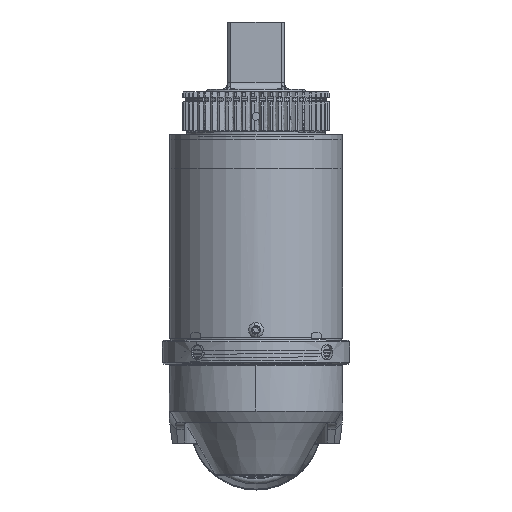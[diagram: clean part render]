
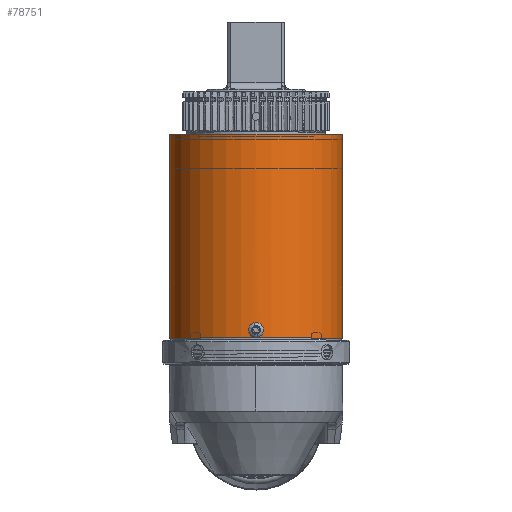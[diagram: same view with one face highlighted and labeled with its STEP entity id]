
A CAD part, top view. The second image highlights one B-rep face of the part: STEP entity #78751.
In plain terms, the highlighted cylindrical face has radius 38.735 mm (diameter 77.47 mm), a partial arc.
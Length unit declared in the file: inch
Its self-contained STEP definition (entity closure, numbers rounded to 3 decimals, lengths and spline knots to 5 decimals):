
#3724 = EDGE_LOOP ( 'NONE', ( #106020, #95134, #104979, #43543 ) ) ;
#10041 = VERTEX_POINT ( 'NONE', #33636 ) ;
#27387 = CARTESIAN_POINT ( 'NONE',  ( -0.00003, 1.703, 17.65395 ) ) ;
#28171 = CARTESIAN_POINT ( 'NONE',  ( -1.525, 1.485, 16.12895 ) ) ;
#32780 = DIRECTION ( 'NONE',  ( 0., 1., 0. ) ) ;
#33544 = LINE ( 'NONE', #92432, #85838 ) ;
#33636 = CARTESIAN_POINT ( 'NONE',  ( 1.525, 5.0625, 16.12895 ) ) ;
#34207 = AXIS2_PLACEMENT_3D ( 'NONE', #105044, #73909, #52889 ) ;
#35405 = CARTESIAN_POINT ( 'NONE',  ( -1.525, 1.485, 16.12895 ) ) ;
#38482 = VECTOR ( 'NONE', #32780, 39.37008 ) ;
#39764 = VERTEX_POINT ( 'NONE', #27387 ) ;
#41734 = LINE ( 'NONE', #35405, #38482 ) ;
#42888 = B_SPLINE_CURVE_WITH_KNOTS ( 'NONE', 3,
 ( #55993, #56116, #55390, #55363, #55226, #55212, #55112, #54969, #54950, #54818, #54805, #54700, #54545, #54526, #54370, #54357, #54248, #54085, #54061, #53929, #53913, #53639, #53620, #53479, #53457, #53356, #53192, #53176 ),
 .UNSPECIFIED., .F., .F.,
 ( 4, 2, 2, 2, 2, 2, 2, 2, 2, 2, 2, 2, 2, 4 ),
 ( 0.00619, 0.00697, 0.00774, 0.00813, 0.00852, 0.0089, 0.00929, 0.00968, 0.01007, 0.01045, 0.01084, 0.01123, 0.01161, 0.01239 ),
 .UNSPECIFIED. ) ;
#43543 = ORIENTED_EDGE ( 'NONE', *, *, #56290, .T. ) ;
#44593 = CIRCLE ( 'NONE', #95877, 1.525 ) ;
#48399 = CIRCLE ( 'NONE', #66449, 1.525 ) ;
#49626 = CARTESIAN_POINT ( 'NONE',  ( 1.525, 1.485, 16.12895 ) ) ;
#52480 = EDGE_CURVE ( 'NONE', #76326, #111945, #41734, .T. ) ;
#52889 = DIRECTION ( 'NONE',  ( 1., 0., 0. ) ) ;
#53176 = CARTESIAN_POINT ( 'NONE',  ( 0., 1.547, 17.65395 ) ) ;
#53192 = CARTESIAN_POINT ( 'NONE',  ( 0.01031, 1.547, 17.65395 ) ) ;
#53312 = EDGE_CURVE ( 'NONE', #73940, #10041, #33544, .T. ) ;
#53356 = CARTESIAN_POINT ( 'NONE',  ( 0.02055, 1.54907, 17.65384 ) ) ;
#53457 = CARTESIAN_POINT ( 'NONE',  ( 0.03462, 1.55492, 17.65357 ) ) ;
#53479 = CARTESIAN_POINT ( 'NONE',  ( 0.03917, 1.55735, 17.65346 ) ) ;
#53620 = CARTESIAN_POINT ( 'NONE',  ( 0.04768, 1.56306, 17.65321 ) ) ;
#53639 = CARTESIAN_POINT ( 'NONE',  ( 0.0516, 1.56629, 17.65308 ) ) ;
#53913 = CARTESIAN_POINT ( 'NONE',  ( 0.05879, 1.57349, 17.65282 ) ) ;
#53929 = CARTESIAN_POINT ( 'NONE',  ( 0.06209, 1.57751, 17.65269 ) ) ;
#54061 = CARTESIAN_POINT ( 'NONE',  ( 0.06773, 1.58599, 17.65245 ) ) ;
#54085 = CARTESIAN_POINT ( 'NONE',  ( 0.07013, 1.59047, 17.65234 ) ) ;
#54248 = CARTESIAN_POINT ( 'NONE',  ( 0.07404, 1.59993, 17.65216 ) ) ;
#54357 = CARTESIAN_POINT ( 'NONE',  ( 0.07553, 1.60488, 17.65208 ) ) ;
#54370 = CARTESIAN_POINT ( 'NONE',  ( 0.0775, 1.61485, 17.65198 ) ) ;
#54526 = CARTESIAN_POINT ( 'NONE',  ( 0.07801, 1.61993, 17.65196 ) ) ;
#54545 = CARTESIAN_POINT ( 'NONE',  ( 0.07799, 1.63022, 17.65196 ) ) ;
#54700 = CARTESIAN_POINT ( 'NONE',  ( 0.07749, 1.63529, 17.65198 ) ) ;
#54805 = CARTESIAN_POINT ( 'NONE',  ( 0.07549, 1.64526, 17.65208 ) ) ;
#54818 = CARTESIAN_POINT ( 'NONE',  ( 0.07399, 1.65022, 17.65216 ) ) ;
#54950 = CARTESIAN_POINT ( 'NONE',  ( 0.07007, 1.65965, 17.65234 ) ) ;
#54969 = CARTESIAN_POINT ( 'NONE',  ( 0.06767, 1.66413, 17.65245 ) ) ;
#55112 = CARTESIAN_POINT ( 'NONE',  ( 0.062, 1.67261, 17.65269 ) ) ;
#55212 = CARTESIAN_POINT ( 'NONE',  ( 0.0587, 1.67662, 17.65283 ) ) ;
#55226 = CARTESIAN_POINT ( 'NONE',  ( 0.0479, 1.68739, 17.65322 ) ) ;
#55363 = CARTESIAN_POINT ( 'NONE',  ( 0.03919, 1.6932, 17.65348 ) ) ;
#55390 = CARTESIAN_POINT ( 'NONE',  ( 0.02042, 1.70096, 17.65384 ) ) ;
#55993 = CARTESIAN_POINT ( 'NONE',  ( -0.00003, 1.703, 17.65395 ) ) ;
#56116 = CARTESIAN_POINT ( 'NONE',  ( 0.01015, 1.703, 17.65395 ) ) ;
#56126 = CARTESIAN_POINT ( 'NONE',  ( -0.00003, 1.703, 17.65395 ) ) ;
#56261 = EDGE_CURVE ( 'NONE', #73940, #76326, #48399, .T. ) ;
#56279 = CARTESIAN_POINT ( 'NONE',  ( -0.00512, 1.703, 17.65395 ) ) ;
#56290 = EDGE_CURVE ( 'NONE', #10041, #111945, #44593, .T. ) ;
#56300 = CARTESIAN_POINT ( 'NONE',  ( -0.01029, 1.70249, 17.65393 ) ) ;
#56446 = CARTESIAN_POINT ( 'NONE',  ( -0.02028, 1.70049, 17.65383 ) ) ;
#56550 = CARTESIAN_POINT ( 'NONE',  ( -0.02514, 1.69901, 17.65375 ) ) ;
#56565 = CARTESIAN_POINT ( 'NONE',  ( -0.0346, 1.6951, 17.65357 ) ) ;
#56710 = CARTESIAN_POINT ( 'NONE',  ( -0.03915, 1.69265, 17.65346 ) ) ;
#56733 = CARTESIAN_POINT ( 'NONE',  ( -0.0476, 1.687, 17.65322 ) ) ;
#56884 = CARTESIAN_POINT ( 'NONE',  ( -0.05154, 1.68377, 17.65309 ) ) ;
#56990 = CARTESIAN_POINT ( 'NONE',  ( -0.05882, 1.67648, 17.65282 ) ) ;
#57011 = CARTESIAN_POINT ( 'NONE',  ( -0.06204, 1.67255, 17.65269 ) ) ;
#57021 = EDGE_CURVE ( 'NONE', #67739, #39764, #67105, .T. ) ;
#57030 = EDGE_CURVE ( 'NONE', #39764, #67739, #42888, .T. ) ;
#57158 = CARTESIAN_POINT ( 'NONE',  ( -0.06769, 1.66409, 17.65245 ) ) ;
#57177 = CARTESIAN_POINT ( 'NONE',  ( -0.07013, 1.65953, 17.65234 ) ) ;
#57340 = CARTESIAN_POINT ( 'NONE',  ( -0.07403, 1.65008, 17.65216 ) ) ;
#57455 = CARTESIAN_POINT ( 'NONE',  ( -0.07551, 1.64522, 17.65208 ) ) ;
#57468 = CARTESIAN_POINT ( 'NONE',  ( -0.0775, 1.63521, 17.65198 ) ) ;
#57605 = CARTESIAN_POINT ( 'NONE',  ( -0.078, 1.63005, 17.65196 ) ) ;
#57628 = CARTESIAN_POINT ( 'NONE',  ( -0.07799, 1.61478, 17.65196 ) ) ;
#57780 = CARTESIAN_POINT ( 'NONE',  ( -0.07595, 1.60452, 17.65207 ) ) ;
#57889 = CARTESIAN_POINT ( 'NONE',  ( -0.06816, 1.58575, 17.65243 ) ) ;
#57907 = CARTESIAN_POINT ( 'NONE',  ( -0.06235, 1.57705, 17.65269 ) ) ;
#58046 = CARTESIAN_POINT ( 'NONE',  ( -0.05156, 1.56625, 17.65308 ) ) ;
#58062 = CARTESIAN_POINT ( 'NONE',  ( -0.04755, 1.56296, 17.65322 ) ) ;
#58220 = CARTESIAN_POINT ( 'NONE',  ( -0.03907, 1.5573, 17.65346 ) ) ;
#58341 = CARTESIAN_POINT ( 'NONE',  ( -0.03459, 1.5549, 17.65357 ) ) ;
#58487 = CARTESIAN_POINT ( 'NONE',  ( -0.02515, 1.55099, 17.65375 ) ) ;
#58510 = CARTESIAN_POINT ( 'NONE',  ( -0.02019, 1.54949, 17.65383 ) ) ;
#58668 = CARTESIAN_POINT ( 'NONE',  ( -0.01022, 1.54751, 17.65393 ) ) ;
#59260 = CARTESIAN_POINT ( 'NONE',  ( 0., 1.547, 17.65395 ) ) ;
#60174 = CARTESIAN_POINT ( 'NONE',  ( -0.00515, 1.547, 17.65395 ) ) ;
#66449 = AXIS2_PLACEMENT_3D ( 'NONE', #126653, #126633, #126496 ) ;
#67105 = B_SPLINE_CURVE_WITH_KNOTS ( 'NONE', 3,
 ( #59260, #60174, #58668, #58510, #58487, #58341, #58220, #58062, #58046, #57907, #57889, #57780, #57628, #57605, #57468, #57455, #57340, #57177, #57158, #57011, #56990, #56884, #56733, #56710, #56565, #56550, #56446, #56300, #56279, #56126 ),
 .UNSPECIFIED., .F., .F.,
 ( 4, 2, 2, 2, 2, 2, 2, 2, 2, 2, 2, 2, 2, 2, 4 ),
 ( 0., 0.00039, 0.00077, 0.00116, 0.00155, 0.00232, 0.0031, 0.00348, 0.00387, 0.00426, 0.00465, 0.00503, 0.00542, 0.00581, 0.00619 ),
 .UNSPECIFIED. ) ;
#67739 = VERTEX_POINT ( 'NONE', #116688 ) ;
#73527 = FACE_OUTER_BOUND ( 'NONE', #3724, .T. ) ;
#73909 = DIRECTION ( 'NONE',  ( 0., 1., 0. ) ) ;
#73940 = VERTEX_POINT ( 'NONE', #49626 ) ;
#74453 = ORIENTED_EDGE ( 'NONE', *, *, #57030, .T. ) ;
#75616 = EDGE_LOOP ( 'NONE', ( #107493, #74453 ) ) ;
#76326 = VERTEX_POINT ( 'NONE', #28171 ) ;
#78751 = ADVANCED_FACE ( 'NONE', ( #73527, #125733 ), #122472, .T. ) ;
#85838 = VECTOR ( 'NONE', #92130, 39.37008 ) ;
#92130 = DIRECTION ( 'NONE',  ( 0., 1., 0. ) ) ;
#92432 = CARTESIAN_POINT ( 'NONE',  ( 1.525, 1.485, 16.12895 ) ) ;
#95134 = ORIENTED_EDGE ( 'NONE', *, *, #56261, .F. ) ;
#95877 = AXIS2_PLACEMENT_3D ( 'NONE', #126182, #126045, #126031 ) ;
#104979 = ORIENTED_EDGE ( 'NONE', *, *, #53312, .T. ) ;
#105044 = CARTESIAN_POINT ( 'NONE',  ( 0., 1.485, 16.12895 ) ) ;
#106020 = ORIENTED_EDGE ( 'NONE', *, *, #52480, .F. ) ;
#107493 = ORIENTED_EDGE ( 'NONE', *, *, #57021, .T. ) ;
#111945 = VERTEX_POINT ( 'NONE', #115526 ) ;
#115526 = CARTESIAN_POINT ( 'NONE',  ( -1.525, 5.0625, 16.12895 ) ) ;
#116688 = CARTESIAN_POINT ( 'NONE',  ( 0., 1.547, 17.65395 ) ) ;
#122472 = CYLINDRICAL_SURFACE ( 'NONE', #34207, 1.525 ) ;
#125733 = FACE_BOUND ( 'NONE', #75616, .T. ) ;
#126031 = DIRECTION ( 'NONE',  ( -1., 0., 0. ) ) ;
#126045 = DIRECTION ( 'NONE',  ( 0., -1., 0. ) ) ;
#126182 = CARTESIAN_POINT ( 'NONE',  ( 0., 5.0625, 16.12895 ) ) ;
#126496 = DIRECTION ( 'NONE',  ( -1., 0., 0. ) ) ;
#126633 = DIRECTION ( 'NONE',  ( 0., -1., 0. ) ) ;
#126653 = CARTESIAN_POINT ( 'NONE',  ( 0., 1.485, 16.12895 ) ) ;
